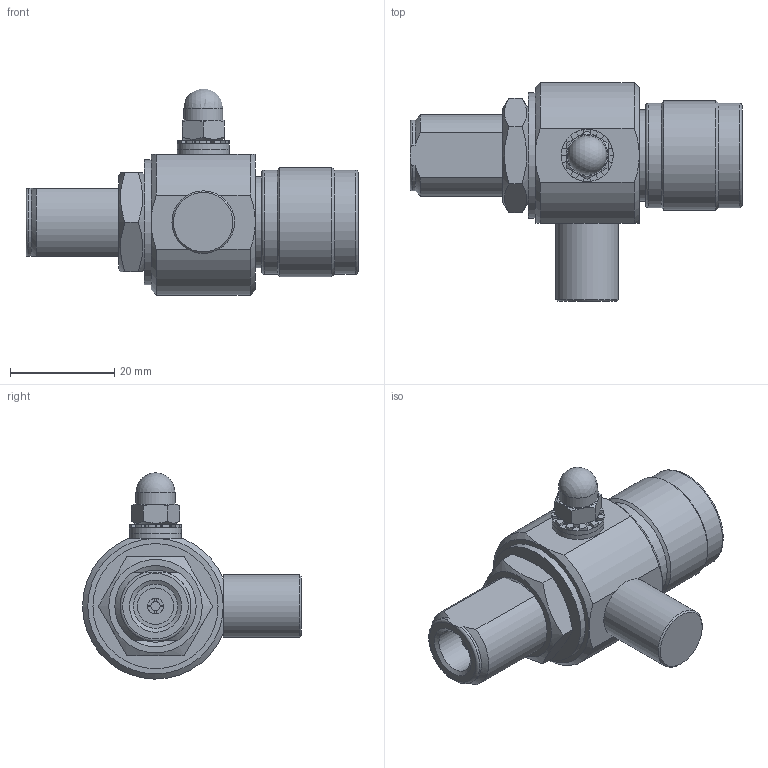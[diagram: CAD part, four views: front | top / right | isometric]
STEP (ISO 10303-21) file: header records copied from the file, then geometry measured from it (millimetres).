
FILE_DESCRIPTION(/* description */ (''),/* implementation_level */ '2;1');
FILE_NAME(/* name */ 'K:\PROJEKTY ROZPRACOVANÉ\MODELY DO KATALOGU\KO\3D - STEP\KO-5GN (F_M).stp',/* time_stamp */ '2020-12-03T08:53:11+01:00',/* author */ ('M Koliska'),/* organization */ (''),/* preprocessor_version */ 'ST-DEVELOPER v18.1',/* originating_system */ 'Autodesk Inventor 2021',/* authorisation */ '');
FILE_SCHEMA (('AUTOMOTIVE_DESIGN { 1 0 10303 214 3 1 1 }'));
Length unit declared in the file: millimetre
Products named in the file (7): KO-5GN (F_M); KO-5GN (F_M)_1; DIN 1587 - M5; DIN 6798 - A  5,3; DIN 125 - A 5,3; MATICE KO; PODLOŽKA
Assembly tree (7 placements, depth 2):
  KO-5GN (F_M)
    KO-5GN (F_M)_1
    DIN 125 - A 5,3  x2
    DIN 1587 - M5
    DIN 6798 - A  5,3
    MATICE KO
    PODLOŽKA
Bounding box: 63.7 x 42 x 39.57 mm (x, y, z)
Volume: 23285.1 mm3; surface area: 9763.1 mm2
Topology: 7 solids, 7 shells, 205 faces, 505 edges, 326 vertices
Faces by surface type: plane 93, cylinder 81, cone 26, torus 4, sphere 1
Full cylindrical faces by diameter (mm): 1.8 x1, 3 x2, 4.134 x1, 5 x1, 5.3 x3, 7 x1, 7.5 x1, 8.5 x1, 10 x2, 12 x1, 13.835 x1, 15 x1, 16.3 x1, 17.5 x1, 18 x1, 20 x2, 21 x1, 24 x1
Entity records: 6292 total; most frequent: CARTESIAN_POINT 1164, DIRECTION 1087, ORIENTED_EDGE 986, EDGE_CURVE 493, AXIS2_PLACEMENT_3D 424, VERTEX_POINT 320, LINE 239, VECTOR 239
